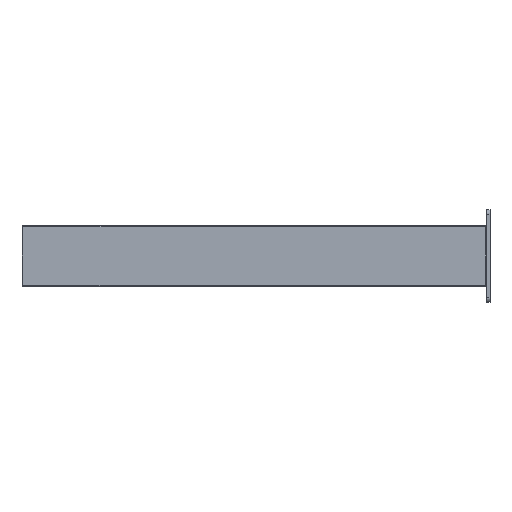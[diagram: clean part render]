
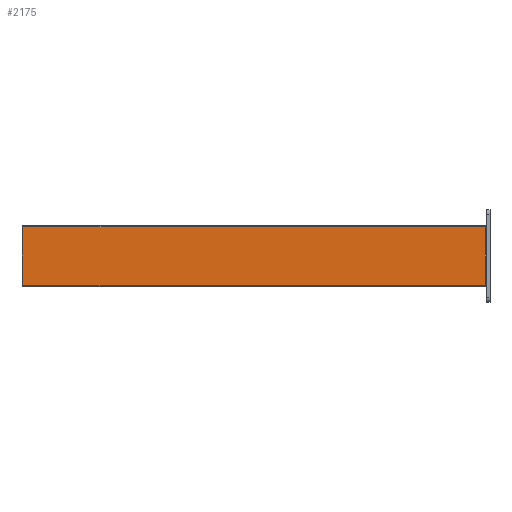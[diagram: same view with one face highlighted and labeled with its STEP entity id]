
A CAD part, left-side view. The second image highlights one B-rep face of the part: STEP entity #2175.
In plain terms, the highlighted planar face has unit normal (-1, 0, 0) as drawn and (0, -1, 0) by its records, which use the part's own axes.
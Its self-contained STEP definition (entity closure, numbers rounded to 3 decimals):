
#46=DIRECTION('',(0.,0.,-1.));
#47=VECTOR('',#46,126.);
#48=CARTESIAN_POINT('',(-498.,-65.,63.));
#49=LINE('',#48,#47);
#53=DIRECTION('',(-1.,0.,0.));
#54=VECTOR('',#53,996.);
#55=CARTESIAN_POINT('',(498.,-65.,63.));
#56=LINE('',#55,#54);
#60=DIRECTION('',(0.,0.,1.));
#61=VECTOR('',#60,126.);
#62=CARTESIAN_POINT('',(498.,-65.,-63.));
#63=LINE('',#62,#61);
#67=DIRECTION('',(1.,0.,0.));
#68=VECTOR('',#67,996.);
#69=CARTESIAN_POINT('',(-498.,-65.,-63.));
#70=LINE('',#69,#68);
#1924=CARTESIAN_POINT('',(-498.,-65.,63.));
#1925=CARTESIAN_POINT('',(-498.,-65.,-63.));
#1926=VERTEX_POINT('',#1924);
#1927=VERTEX_POINT('',#1925);
#1932=CARTESIAN_POINT('',(498.,-65.,-63.));
#1933=VERTEX_POINT('',#1932);
#1938=CARTESIAN_POINT('',(498.,-65.,63.));
#1939=VERTEX_POINT('',#1938);
#2160=CARTESIAN_POINT('',(0.,-65.,0.));
#2161=DIRECTION('',(0.,1.,0.));
#2162=DIRECTION('',(1.,0.,0.));
#2163=AXIS2_PLACEMENT_3D('',#2160,#2161,#2162);
#2164=PLANE('',#2163);
#2166=ORIENTED_EDGE('',*,*,#2165,.F.);
#2168=ORIENTED_EDGE('',*,*,#2167,.F.);
#2170=ORIENTED_EDGE('',*,*,#2169,.F.);
#2172=ORIENTED_EDGE('',*,*,#2171,.F.);
#2173=EDGE_LOOP('',(#2166,#2168,#2170,#2172));
#2174=FACE_OUTER_BOUND('',#2173,.F.);
#2165=EDGE_CURVE('',#1926,#1927,#49,.T.);
#2167=EDGE_CURVE('',#1939,#1926,#56,.T.);
#2169=EDGE_CURVE('',#1933,#1939,#63,.T.);
#2171=EDGE_CURVE('',#1927,#1933,#70,.T.);
#2175=ADVANCED_FACE('',(#2174),#2164,.F.);
